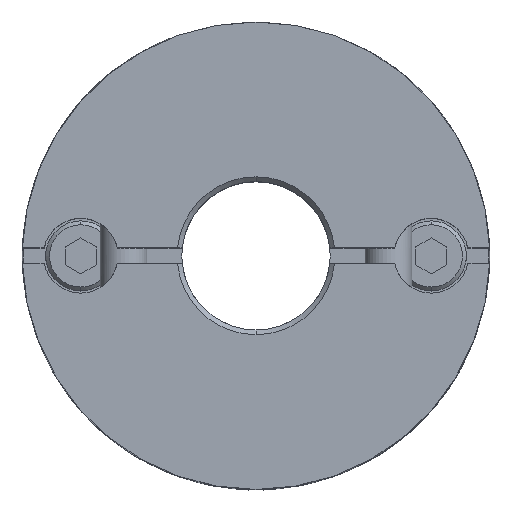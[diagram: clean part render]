
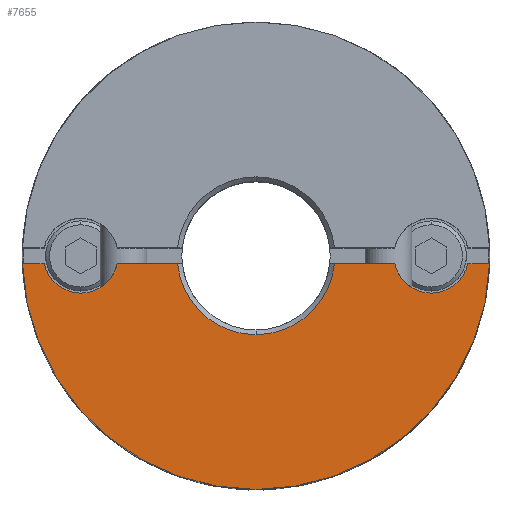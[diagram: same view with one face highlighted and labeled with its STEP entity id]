
A CAD part, top view. The second image highlights one B-rep face of the part: STEP entity #7655.
In plain terms, the highlighted planar face has unit normal (0, 0, 1).
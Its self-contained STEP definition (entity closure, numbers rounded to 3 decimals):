
#622=CARTESIAN_POINT('',(0.,-15.0,11.8));
#623=VERTEX_POINT('',#622);
#630=CARTESIAN_POINT('',(-14.992,-0.5,11.8));
#631=VERTEX_POINT('',#630);
#632=CARTESIAN_POINT('',(0.0,0.0,11.8));
#633=DIRECTION('',(0.0,0.0,-1.0));
#634=DIRECTION('',(0.0,1.0,0.0));
#635=AXIS2_PLACEMENT_3D('',#632,#633,#634);
#636=CIRCLE('',#635,15.0);
#637=EDGE_CURVE('',#623,#631,#636,.T.);
#1032=CARTESIAN_POINT('',(0.,-5.063,11.8));
#1033=VERTEX_POINT('',#1032);
#1041=CARTESIAN_POINT('',(-5.038,-0.5,11.8));
#1042=VERTEX_POINT('',#1041);
#1056=CARTESIAN_POINT('',(0.0,0.0,11.8));
#1057=DIRECTION('',(0.0,0.0,1.0));
#1058=DIRECTION('',(0.0,-1.0,0.0));
#1059=AXIS2_PLACEMENT_3D('',#1056,#1057,#1058);
#1060=CIRCLE('',#1059,5.063);
#1061=EDGE_CURVE('',#1042,#1033,#1060,.T.);
#1353=CARTESIAN_POINT('',(-11.25,-2.4,11.8));
#1354=VERTEX_POINT('',#1353);
#1370=CARTESIAN_POINT('',(-13.597,-0.5,11.8));
#1371=VERTEX_POINT('',#1370);
#1378=CARTESIAN_POINT('',(-11.25,0.,11.8));
#1379=DIRECTION('',(0.0,0.0,-1.0));
#1380=DIRECTION('',(0.0,1.0,0.0));
#1381=AXIS2_PLACEMENT_3D('',#1378,#1379,#1380);
#1382=CIRCLE('',#1381,2.4);
#1383=EDGE_CURVE('',#1354,#1371,#1382,.T.);
#1585=CARTESIAN_POINT('',(11.25,-2.4,11.8));
#1586=VERTEX_POINT('',#1585);
#1652=CARTESIAN_POINT('',(8.903,-0.5,11.8));
#1653=VERTEX_POINT('',#1652);
#1660=CARTESIAN_POINT('',(11.25,0.,11.8));
#1661=DIRECTION('',(0.0,0.0,-1.0));
#1662=DIRECTION('',(0.0,1.0,0.0));
#1663=AXIS2_PLACEMENT_3D('',#1660,#1661,#1662);
#1664=CIRCLE('',#1663,2.4);
#1665=EDGE_CURVE('',#1586,#1653,#1664,.T.);
#6153=CARTESIAN_POINT('',(13.597,-0.5,11.8));
#6154=VERTEX_POINT('',#6153);
#6155=CARTESIAN_POINT('',(11.25,0.,11.8));
#6156=DIRECTION('',(0.0,0.0,-1.0));
#6157=DIRECTION('',(0.0,1.0,0.0));
#6158=AXIS2_PLACEMENT_3D('',#6155,#6156,#6157);
#6159=CIRCLE('',#6158,2.4);
#6160=EDGE_CURVE('',#6154,#1586,#6159,.T.);
#6560=CARTESIAN_POINT('',(-8.903,-0.5,11.8));
#6561=VERTEX_POINT('',#6560);
#6562=CARTESIAN_POINT('',(-11.25,0.,11.8));
#6563=DIRECTION('',(0.0,0.0,-1.0));
#6564=DIRECTION('',(0.0,1.0,0.0));
#6565=AXIS2_PLACEMENT_3D('',#6562,#6563,#6564);
#6566=CIRCLE('',#6565,2.4);
#6567=EDGE_CURVE('',#6561,#1354,#6566,.T.);
#6690=CARTESIAN_POINT('',(-5.038,-0.5,11.8));
#6691=DIRECTION('',(-1.0,0.0,0.0));
#6692=VECTOR('',#6691,3.865);
#6693=LINE('',#6690,#6692);
#6694=EDGE_CURVE('',#1042,#6561,#6693,.T.);
#6807=CARTESIAN_POINT('',(5.038,-0.5,11.8));
#6808=VERTEX_POINT('',#6807);
#6822=CARTESIAN_POINT('',(8.903,-0.5,11.8));
#6823=DIRECTION('',(-1.0,0.0,0.0));
#6824=VECTOR('',#6823,3.865);
#6825=LINE('',#6822,#6824);
#6826=EDGE_CURVE('',#1653,#6808,#6825,.T.);
#7402=CARTESIAN_POINT('',(14.992,-0.5,11.8));
#7403=VERTEX_POINT('',#7402);
#7404=CARTESIAN_POINT('',(14.992,-0.5,11.8));
#7405=DIRECTION('',(-1.0,0.0,0.0));
#7406=VECTOR('',#7405,1.394);
#7407=LINE('',#7404,#7406);
#7408=EDGE_CURVE('',#7403,#6154,#7407,.T.);
#7522=CARTESIAN_POINT('',(-13.597,-0.5,11.8));
#7523=DIRECTION('',(-1.0,0.0,0.0));
#7524=VECTOR('',#7523,1.394);
#7525=LINE('',#7522,#7524);
#7526=EDGE_CURVE('',#1371,#631,#7525,.T.);
#7624=CARTESIAN_POINT('',(0.,1.364,11.8));
#7625=DIRECTION('',(0.0,0.0,1.0));
#7626=DIRECTION('',(0.0,1.0,0.0));
#7627=AXIS2_PLACEMENT_3D('',#7624,#7625,#7626);
#7628=PLANE('',#7627);
#7629=ORIENTED_EDGE('',*,*,#6160,.T.);
#7630=ORIENTED_EDGE('',*,*,#1665,.T.);
#7631=ORIENTED_EDGE('',*,*,#6826,.T.);
#7632=CARTESIAN_POINT('',(0.0,0.0,11.8));
#7633=DIRECTION('',(0.0,0.0,1.0));
#7634=DIRECTION('',(0.0,-1.0,0.0));
#7635=AXIS2_PLACEMENT_3D('',#7632,#7633,#7634);
#7636=CIRCLE('',#7635,5.063);
#7637=EDGE_CURVE('',#1033,#6808,#7636,.T.);
#7638=ORIENTED_EDGE('',*,*,#7637,.F.);
#7639=ORIENTED_EDGE('',*,*,#1061,.F.);
#7640=ORIENTED_EDGE('',*,*,#6694,.T.);
#7641=ORIENTED_EDGE('',*,*,#6567,.T.);
#7642=ORIENTED_EDGE('',*,*,#1383,.T.);
#7643=ORIENTED_EDGE('',*,*,#7526,.T.);
#7644=ORIENTED_EDGE('',*,*,#637,.F.);
#7645=CARTESIAN_POINT('',(0.0,0.0,11.8));
#7646=DIRECTION('',(0.0,0.0,-1.0));
#7647=DIRECTION('',(0.0,1.0,0.0));
#7648=AXIS2_PLACEMENT_3D('',#7645,#7646,#7647);
#7649=CIRCLE('',#7648,15.0);
#7650=EDGE_CURVE('',#7403,#623,#7649,.T.);
#7651=ORIENTED_EDGE('',*,*,#7650,.F.);
#7652=ORIENTED_EDGE('',*,*,#7408,.T.);
#7653=EDGE_LOOP('',(#7629,#7630,#7631,#7638,#7639,#7640,#7641,#7642,#7643,#7644,#7651,#7652));
#7654=FACE_OUTER_BOUND('',#7653,.T.);
#7655=ADVANCED_FACE('',(#7654),#7628,.T.);
